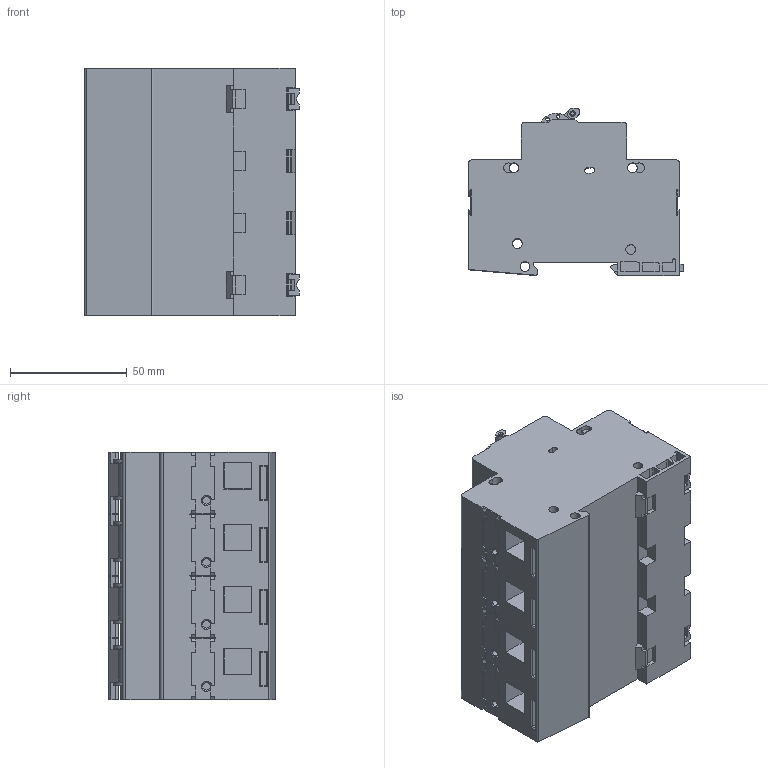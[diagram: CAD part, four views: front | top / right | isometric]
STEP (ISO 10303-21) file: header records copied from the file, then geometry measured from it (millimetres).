
FILE_DESCRIPTION (( 'STEP AP214' ), '1' );
FILE_NAME ('AST_4_zj_02.step', '2013-08-26T10:32:11', ( '' ), ( '' ), 'SwSTEP 2.0', 'SolidWorks 2011', '' );
FILE_SCHEMA (( 'AUTOMOTIVE_DESIGN' ));
Length unit declared in the file: millimetre
Products named in the file (1): AST_4_zj_02
Bounding box: 91.7 x 71.47 x 106 mm (x, y, z)
Volume: 494528.8 mm3; surface area: 68225 mm2
Topology: 1 solids, 9 shells, 1342 faces, 3601 edges, 2360 vertices
Faces by surface type: plane 801, cylinder 457, bspline 68, cone 16
Entity records: 61005 total; most frequent: CARTESIAN_POINT 12968, ORIENTED_EDGE 7202, DIRECTION 6603, EDGE_CURVE 3601, VERTEX_POINT 2360, VECTOR 2301, LINE 2301, AXIS2_PLACEMENT_3D 2151
